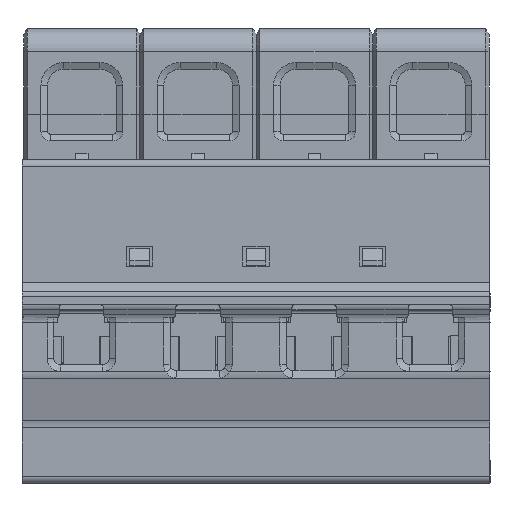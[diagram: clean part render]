
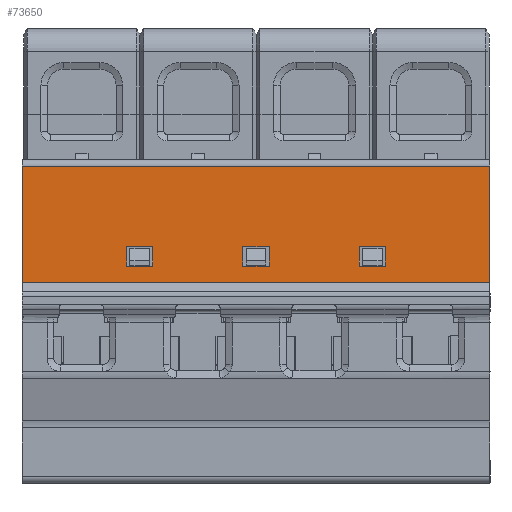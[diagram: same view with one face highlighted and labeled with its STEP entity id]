
A CAD part, left-side view. The second image highlights one B-rep face of the part: STEP entity #73650.
In plain terms, the highlighted planar face has unit normal (-1, 0, 0).
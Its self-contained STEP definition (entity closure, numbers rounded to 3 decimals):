
#1356=DIRECTION('',(0.,0.,-1.));
#1357=VECTOR('',#1356,17.8);
#1358=CARTESIAN_POINT('',(-0.05,71.6,43.));
#1359=LINE('',#1358,#1357);
#3136=DIRECTION('',(0.,-1.,0.));
#3137=VECTOR('',#3136,71.6);
#3138=CARTESIAN_POINT('',(-0.05,71.6,25.2));
#3139=LINE('',#3138,#3137);
#3140=DIRECTION('',(0.,0.,-1.));
#3141=VECTOR('',#3140,17.8);
#3142=CARTESIAN_POINT('',(-0.05,0.,43.));
#3143=LINE('',#3142,#3141);
#3144=DIRECTION('',(0.,0.,1.));
#3145=VECTOR('',#3144,3.);
#3146=CARTESIAN_POINT('',(-0.05,16.,27.7));
#3147=LINE('',#3146,#3145);
#3148=DIRECTION('',(0.,-1.,0.));
#3149=VECTOR('',#3148,4.);
#3150=CARTESIAN_POINT('',(-0.05,20.,27.7));
#3151=LINE('',#3150,#3149);
#3152=DIRECTION('',(0.,0.,1.));
#3153=VECTOR('',#3152,3.);
#3154=CARTESIAN_POINT('',(-0.05,51.6,27.7));
#3155=LINE('',#3154,#3153);
#3156=DIRECTION('',(0.,1.,0.));
#3157=VECTOR('',#3156,4.);
#3158=CARTESIAN_POINT('',(-0.05,51.6,30.7));
#3159=LINE('',#3158,#3157);
#3160=DIRECTION('',(0.,1.,0.));
#3161=VECTOR('',#3160,71.6);
#3162=CARTESIAN_POINT('',(-0.05,0.,43.));
#3163=LINE('',#3162,#3161);
#22493=DIRECTION('',(0.,-1.,0.));
#22494=VECTOR('',#22493,4.);
#22495=CARTESIAN_POINT('',(-0.05,20.,30.7));
#22496=LINE('',#22495,#22494);
#22501=DIRECTION('',(0.,0.,1.));
#22502=VECTOR('',#22501,3.);
#22503=CARTESIAN_POINT('',(-0.05,20.,27.7));
#22504=LINE('',#22503,#22502);
#22609=DIRECTION('',(0.,0.,-1.));
#22610=VECTOR('',#22609,3.);
#22611=CARTESIAN_POINT('',(-0.05,33.8,30.7));
#22612=LINE('',#22611,#22610);
#22621=DIRECTION('',(0.,1.,0.));
#22622=VECTOR('',#22621,4.);
#22623=CARTESIAN_POINT('',(-0.05,33.8,27.7));
#22624=LINE('',#22623,#22622);
#22633=DIRECTION('',(0.,0.,1.));
#22634=VECTOR('',#22633,3.);
#22635=CARTESIAN_POINT('',(-0.05,37.8,27.7));
#22636=LINE('',#22635,#22634);
#22641=DIRECTION('',(0.,-1.,0.));
#22642=VECTOR('',#22641,4.);
#22643=CARTESIAN_POINT('',(-0.05,37.8,30.7));
#22644=LINE('',#22643,#22642);
#38832=DIRECTION('',(0.,0.,1.));
#38833=VECTOR('',#38832,3.);
#38834=CARTESIAN_POINT('',(-0.05,55.6,27.7));
#38835=LINE('',#38834,#38833);
#38844=DIRECTION('',(0.,1.,0.));
#38845=VECTOR('',#38844,4.);
#38846=CARTESIAN_POINT('',(-0.05,51.6,27.7));
#38847=LINE('',#38846,#38845);
#53997=CARTESIAN_POINT('',(-0.05,0.,25.2));
#53998=VERTEX_POINT('',#53997);
#53999=CARTESIAN_POINT('',(-0.05,0.,43.));
#54000=VERTEX_POINT('',#53999);
#54850=CARTESIAN_POINT('',(-0.05,71.6,43.));
#54851=VERTEX_POINT('',#54850);
#54852=CARTESIAN_POINT('',(-0.05,71.6,25.2));
#54853=VERTEX_POINT('',#54852);
#55917=CARTESIAN_POINT('',(-0.05,33.8,30.7));
#55918=CARTESIAN_POINT('',(-0.05,33.8,27.7));
#55919=VERTEX_POINT('',#55917);
#55920=VERTEX_POINT('',#55918);
#55921=CARTESIAN_POINT('',(-0.05,37.8,30.7));
#55922=VERTEX_POINT('',#55921);
#55923=CARTESIAN_POINT('',(-0.05,37.8,27.7));
#55924=VERTEX_POINT('',#55923);
#55925=CARTESIAN_POINT('',(-0.05,16.,27.7));
#55926=CARTESIAN_POINT('',(-0.05,16.,30.7));
#55927=VERTEX_POINT('',#55925);
#55928=VERTEX_POINT('',#55926);
#55929=CARTESIAN_POINT('',(-0.05,20.,30.7));
#55930=VERTEX_POINT('',#55929);
#55931=CARTESIAN_POINT('',(-0.05,20.,27.7));
#55932=VERTEX_POINT('',#55931);
#55933=CARTESIAN_POINT('',(-0.05,55.6,27.7));
#55934=CARTESIAN_POINT('',(-0.05,55.6,30.7));
#55935=VERTEX_POINT('',#55933);
#55936=VERTEX_POINT('',#55934);
#55937=CARTESIAN_POINT('',(-0.05,51.6,27.7));
#55938=VERTEX_POINT('',#55937);
#55939=CARTESIAN_POINT('',(-0.05,51.6,30.7));
#55940=VERTEX_POINT('',#55939);
#73608=CARTESIAN_POINT('',(-0.05,35.8,-5.5));
#73609=DIRECTION('',(-1.,0.,0.));
#73610=DIRECTION('',(0.,0.,1.));
#73611=AXIS2_PLACEMENT_3D('',#73608,#73609,#73610);
#73612=PLANE('',#73611);
#73613=ORIENTED_EDGE('',*,*,#71673,.F.);
#73615=ORIENTED_EDGE('',*,*,#73614,.F.);
#73616=ORIENTED_EDGE('',*,*,#70675,.T.);
#73617=ORIENTED_EDGE('',*,*,#73602,.F.);
#73618=EDGE_LOOP('',(#73613,#73615,#73616,#73617));
#73619=FACE_OUTER_BOUND('',#73618,.F.);
#73621=ORIENTED_EDGE('',*,*,#73620,.F.);
#73623=ORIENTED_EDGE('',*,*,#73622,.F.);
#73625=ORIENTED_EDGE('',*,*,#73624,.F.);
#73627=ORIENTED_EDGE('',*,*,#73626,.F.);
#73628=EDGE_LOOP('',(#73621,#73623,#73625,#73627));
#73629=FACE_BOUND('',#73628,.F.);
#73631=ORIENTED_EDGE('',*,*,#73630,.T.);
#73633=ORIENTED_EDGE('',*,*,#73632,.F.);
#73635=ORIENTED_EDGE('',*,*,#73634,.F.);
#73637=ORIENTED_EDGE('',*,*,#73636,.T.);
#73638=EDGE_LOOP('',(#73631,#73633,#73635,#73637));
#73639=FACE_BOUND('',#73638,.F.);
#73641=ORIENTED_EDGE('',*,*,#73640,.F.);
#73643=ORIENTED_EDGE('',*,*,#73642,.F.);
#73645=ORIENTED_EDGE('',*,*,#73644,.T.);
#73647=ORIENTED_EDGE('',*,*,#73646,.T.);
#73648=EDGE_LOOP('',(#73641,#73643,#73645,#73647));
#73649=FACE_BOUND('',#73648,.F.);
#73650=ADVANCED_FACE('',(#73619,#73629,#73639,#73649),#73612,.T.);
#70675=EDGE_CURVE('',#54000,#53998,#3143,.T.);
#71673=EDGE_CURVE('',#54851,#54853,#1359,.T.);
#73602=EDGE_CURVE('',#54853,#53998,#3139,.T.);
#73614=EDGE_CURVE('',#54000,#54851,#3163,.T.);
#73620=EDGE_CURVE('',#55919,#55920,#22612,.T.);
#73622=EDGE_CURVE('',#55922,#55919,#22644,.T.);
#73624=EDGE_CURVE('',#55924,#55922,#22636,.T.);
#73626=EDGE_CURVE('',#55920,#55924,#22624,.T.);
#73630=EDGE_CURVE('',#55927,#55928,#3147,.T.);
#73632=EDGE_CURVE('',#55930,#55928,#22496,.T.);
#73634=EDGE_CURVE('',#55932,#55930,#22504,.T.);
#73636=EDGE_CURVE('',#55932,#55927,#3151,.T.);
#73640=EDGE_CURVE('',#55935,#55936,#38835,.T.);
#73642=EDGE_CURVE('',#55938,#55935,#38847,.T.);
#73644=EDGE_CURVE('',#55938,#55940,#3155,.T.);
#73646=EDGE_CURVE('',#55940,#55936,#3159,.T.);
